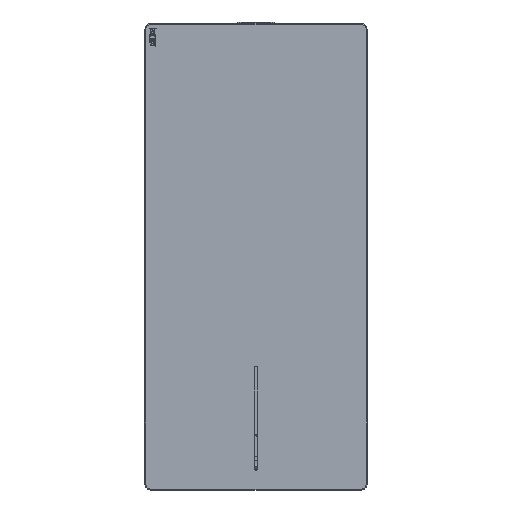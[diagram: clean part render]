
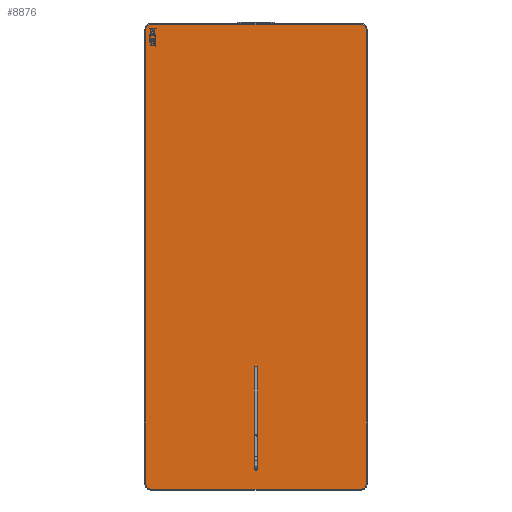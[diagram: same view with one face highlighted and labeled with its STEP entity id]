
A CAD part, top view. The second image highlights one B-rep face of the part: STEP entity #8876.
In plain terms, the highlighted planar face has unit normal (0, 0, 1).
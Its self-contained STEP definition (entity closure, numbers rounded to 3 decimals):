
#113=FACE_BOUND('',#3199,.T.);
#188=PLANE('',#9449);
#548=LINE('',#13012,#1526);
#550=LINE('',#13024,#1528);
#552=LINE('',#13036,#1530);
#554=LINE('',#13045,#1532);
#562=LINE('',#13067,#1540);
#563=LINE('',#13071,#1541);
#1526=VECTOR('',#10302,614.);
#1528=VECTOR('',#10316,284.);
#1530=VECTOR('',#10330,614.);
#1532=VECTOR('',#10342,284.);
#1540=VECTOR('',#10364,136.);
#1541=VECTOR('',#10367,136.);
#2661=FACE_OUTER_BOUND('',#3198,.T.);
#3198=EDGE_LOOP('',(#6288,#6289,#6290,#6291,#6292,#6293,#6294,#6295));
#3199=EDGE_LOOP('',(#6296,#6297,#6298,#6299));
#3797=CIRCLE('',#9421,7.);
#3803=CIRCLE('',#9429,7.);
#3807=CIRCLE('',#9435,7.);
#3811=CIRCLE('',#9441,7.);
#3814=CIRCLE('',#9450,2.15);
#3815=CIRCLE('',#9451,2.15);
#4113=VERTEX_POINT('',#13000);
#4114=VERTEX_POINT('',#13002);
#4116=VERTEX_POINT('',#13008);
#4118=VERTEX_POINT('',#13014);
#4120=VERTEX_POINT('',#13020);
#4122=VERTEX_POINT('',#13026);
#4124=VERTEX_POINT('',#13032);
#4126=VERTEX_POINT('',#13038);
#4133=VERTEX_POINT('',#13065);
#4134=VERTEX_POINT('',#13066);
#4135=VERTEX_POINT('',#13068);
#4136=VERTEX_POINT('',#13070);
#4939=EDGE_CURVE('',#4113,#4114,#3797,.T.);
#4944=EDGE_CURVE('',#4114,#4116,#548,.T.);
#4947=EDGE_CURVE('',#4116,#4118,#3803,.T.);
#4950=EDGE_CURVE('',#4118,#4120,#550,.T.);
#4953=EDGE_CURVE('',#4120,#4122,#3807,.T.);
#4956=EDGE_CURVE('',#4122,#4124,#552,.T.);
#4959=EDGE_CURVE('',#4124,#4126,#3811,.T.);
#4961=EDGE_CURVE('',#4126,#4113,#554,.T.);
#4971=EDGE_CURVE('',#4133,#4134,#562,.T.);
#4972=EDGE_CURVE('',#4134,#4135,#3814,.T.);
#4973=EDGE_CURVE('',#4135,#4136,#563,.T.);
#4974=EDGE_CURVE('',#4136,#4133,#3815,.T.);
#6288=ORIENTED_EDGE('',*,*,#4939,.F.);
#6289=ORIENTED_EDGE('',*,*,#4961,.F.);
#6290=ORIENTED_EDGE('',*,*,#4959,.F.);
#6291=ORIENTED_EDGE('',*,*,#4956,.F.);
#6292=ORIENTED_EDGE('',*,*,#4953,.F.);
#6293=ORIENTED_EDGE('',*,*,#4950,.F.);
#6294=ORIENTED_EDGE('',*,*,#4947,.F.);
#6295=ORIENTED_EDGE('',*,*,#4944,.F.);
#6296=ORIENTED_EDGE('',*,*,#4971,.T.);
#6297=ORIENTED_EDGE('',*,*,#4972,.T.);
#6298=ORIENTED_EDGE('',*,*,#4973,.T.);
#6299=ORIENTED_EDGE('',*,*,#4974,.T.);
#8876=ADVANCED_FACE('',(#2661,#113),#188,.T.);
#9421=AXIS2_PLACEMENT_3D('',#13003,#10291,#10292);
#9429=AXIS2_PLACEMENT_3D('',#13018,#10309,#10310);
#9435=AXIS2_PLACEMENT_3D('',#13030,#10323,#10324);
#9441=AXIS2_PLACEMENT_3D('',#13042,#10337,#10338);
#9449=AXIS2_PLACEMENT_3D('',#13064,#10362,#10363);
#9450=AXIS2_PLACEMENT_3D('',#13069,#10365,#10366);
#9451=AXIS2_PLACEMENT_3D('',#13072,#10368,#10369);
#10291=DIRECTION('center_axis',(0.,0.,-1.));
#10292=DIRECTION('ref_axis',(0.707,0.707,0.));
#10302=DIRECTION('',(0.,-1.,0.));
#10309=DIRECTION('center_axis',(0.,0.,-1.));
#10310=DIRECTION('ref_axis',(0.707,-0.707,0.));
#10316=DIRECTION('',(-1.,0.,0.));
#10323=DIRECTION('center_axis',(0.,0.,-1.));
#10324=DIRECTION('ref_axis',(-0.707,-0.707,0.));
#10330=DIRECTION('',(0.,1.,0.));
#10337=DIRECTION('center_axis',(0.,0.,-1.));
#10338=DIRECTION('ref_axis',(-0.707,0.707,0.));
#10342=DIRECTION('',(1.,0.,0.));
#10362=DIRECTION('center_axis',(0.,0.,1.));
#10363=DIRECTION('ref_axis',(1.,0.,0.));
#10364=DIRECTION('',(0.,1.,0.));
#10365=DIRECTION('center_axis',(0.,0.,-1.));
#10366=DIRECTION('ref_axis',(-1.,0.,0.));
#10367=DIRECTION('',(0.,-1.,0.));
#10368=DIRECTION('center_axis',(0.,0.,-1.));
#10369=DIRECTION('ref_axis',(-1.,0.,0.));
#13000=CARTESIAN_POINT('',(142.,314.,3.));
#13002=CARTESIAN_POINT('',(149.,307.,3.));
#13003=CARTESIAN_POINT('Origin',(142.,307.,3.));
#13008=CARTESIAN_POINT('',(149.,-307.,3.));
#13012=CARTESIAN_POINT('',(149.,157.5,3.));
#13014=CARTESIAN_POINT('',(142.,-314.,3.));
#13018=CARTESIAN_POINT('Origin',(142.,-307.,3.));
#13020=CARTESIAN_POINT('',(-142.,-314.,3.));
#13024=CARTESIAN_POINT('',(75.,-314.,3.));
#13026=CARTESIAN_POINT('',(-149.,-307.,3.));
#13030=CARTESIAN_POINT('Origin',(-142.,-307.,3.));
#13032=CARTESIAN_POINT('',(-149.,307.,3.));
#13036=CARTESIAN_POINT('',(-149.,-157.5,3.));
#13038=CARTESIAN_POINT('',(-142.,314.,3.));
#13042=CARTESIAN_POINT('Origin',(-142.,307.,3.));
#13045=CARTESIAN_POINT('',(-75.,314.,3.));
#13064=CARTESIAN_POINT('Origin',(0.,0.,
3.));
#13065=CARTESIAN_POINT('',(-2.15,-286.,3.));
#13066=CARTESIAN_POINT('',(-2.15,-150.,3.));
#13067=CARTESIAN_POINT('',(-2.15,-143.,3.));
#13068=CARTESIAN_POINT('',(2.15,-150.,3.));
#13069=CARTESIAN_POINT('Origin',(0.,-150.,3.));
#13070=CARTESIAN_POINT('',(2.15,-286.,3.));
#13071=CARTESIAN_POINT('',(2.15,-75.,3.));
#13072=CARTESIAN_POINT('Origin',(0.,-286.,3.));
